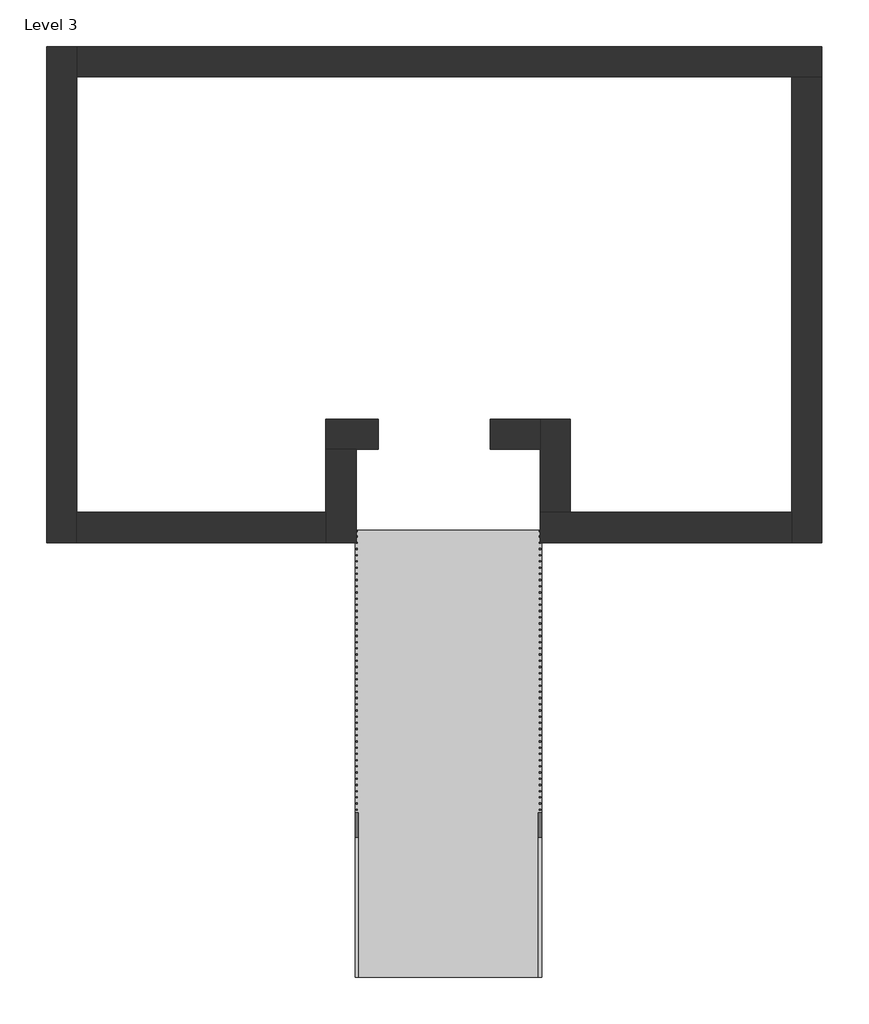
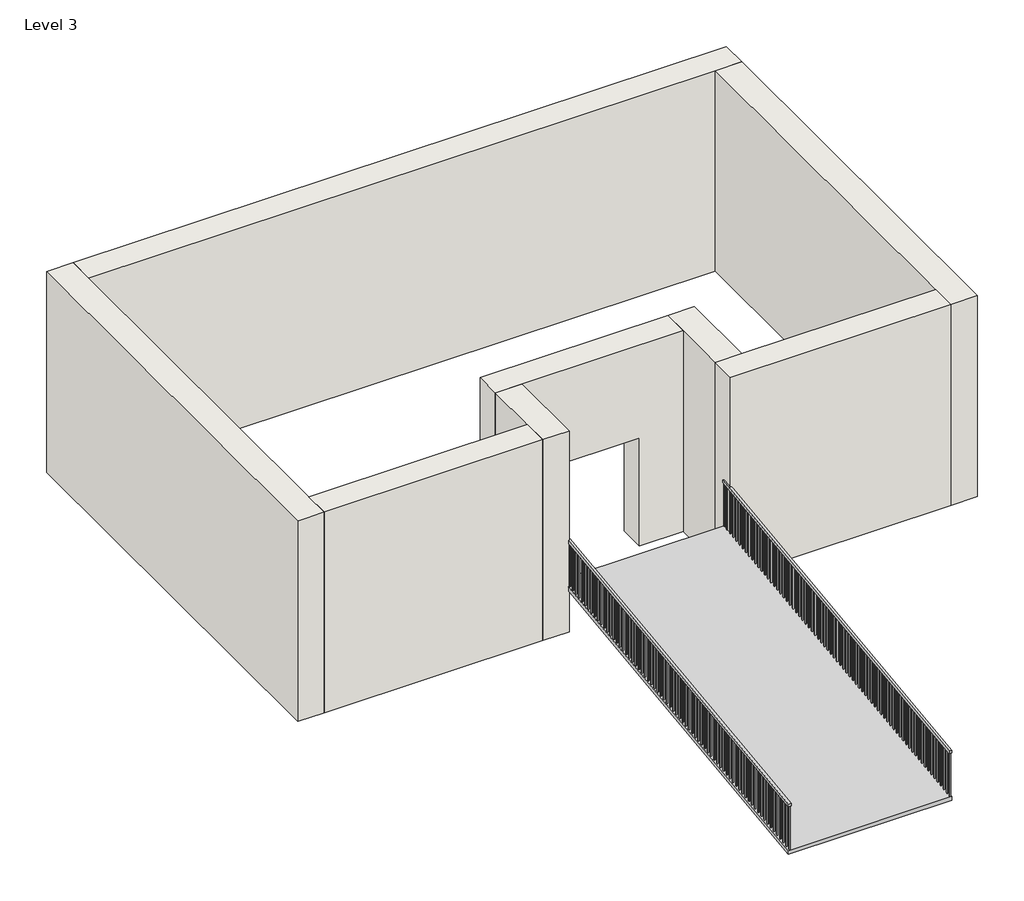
# One storey: 8 walls, 2 railings, 1 ramp.
"""IFC4 building model written with IfcOpenShell, lengths in millimetres."""

from ifc_helpers import new_model, si_unit, frame, origin, place, context, project, spatial, polyline, outline, extrude, faceted_brep, transform, mapped, element, save
from components import handrail_rectangular_7ac86f87, handrail_rectangular_4fce719c, ramp_2_cc1999da

model = new_model("IFC4")

# Units and contexts
model_context = context("Model", 3, world=origin())
ifc_project = project(units=[si_unit("LENGTHUNIT", "METRE", prefix="MILLI")], contexts=[model_context])

# Site, building, storey
site = spatial("IfcSite", under=ifc_project)
building = spatial("IfcBuilding", under=site)
storey = spatial("IfcBuildingStorey", under=building, Name="Level 3", Elevation=-914.4)

# Railings
placement = place(None, origin())
handrail_rectangular_shape = handrail_rectangular_7ac86f87(model_context)
element("IfcRailing", 1, ObjectType="Handrail - Rectangular", at=placement, inside=storey, context=model_context, shape_type="MappedRepresentation", body=[
    mapped(handrail_rectangular_shape, transform((0.0, 0.0, 0.0), x_axis=(1.0, 0.0, 0.0), y_axis=(0.0, 1.0, 0.0), z_axis=(0.0, 0.0, 1.0))),
])
handrail_rectangular_2_shape = handrail_rectangular_4fce719c(model_context)
element("IfcRailing", 2, ObjectType="Handrail - Rectangular", at=placement, inside=storey, context=model_context, shape_type="MappedRepresentation", body=[
    mapped(handrail_rectangular_2_shape, transform((0.0, 0.0, 0.0), x_axis=(1.0, 0.0, 0.0), y_axis=(0.0, 1.0, 0.0), z_axis=(0.0, 0.0, 1.0))),
])

# Ramp
ramp_2_shape = ramp_2_cc1999da(model_context)
element("IfcRamp", 3, ObjectType="Ramp 2", at=placement, inside=storey, context=model_context, shape_type="MappedRepresentation", body=[
    mapped(ramp_2_shape, transform((0.0, 0.0, 0.0), x_axis=(1.0, 0.0, 0.0), y_axis=(0.0, 1.0, 0.0), z_axis=(0.0, 0.0, 1.0))),
])

# Walls
element("IfcWall", 4, ObjectType="Exterior - Brick on CMU", at=placement, inside=storey, context=model_context, shape_type="Brep", body=[
    faceted_brep([(-7722.0345581, -2928.7359239, -914.4), (-7722.0345581, -2433.4359239, -914.4), (-7722.0345581, 4691.2640761, -914.4), (-7722.0345581, 5186.5640761, -914.4), (-7722.0345581, 5186.5640761, 3048.0), (-7722.0345581, 4691.2640761, 3048.0), (-7722.0345581, -2433.4359239, 3048.0), (-7722.0345581, -2928.7359239, 3048.0), (-8217.3345581, -2928.7359239, -914.4), (-8217.3345581, -2928.7359239, 3048.0), (-8217.3345581, 5186.5640761, 3048.0), (-8217.3345581, 5186.5640761, -914.4)], [[[0, 1, 2, 3, 4, 5, 6, 7]], [[8, 9, 10, 11]], [[3, 2, 1, 0, 8, 11]], [[7, 6, 5, 4, 10, 9]], [[4, 3, 11, 10]], [[0, 7, 9, 8]]]),
])
element("IfcWall", 5, ObjectType="Exterior - Brick on CMU", at=placement, inside=storey, context=model_context, shape_type="Brep", body=[
    faceted_brep([(-7722.0345581, 4691.2640761, -914.4), (3974.6654419, 4691.2640761, -914.4), (4469.9654419, 4691.2640761, -914.4), (4469.9654419, 4691.2640761, 3048.0), (3974.6654419, 4691.2640761, 3048.0), (-7722.0345581, 4691.2640761, 3048.0), (-7722.0345581, 5186.5640761, -914.4), (-7722.0345581, 5186.5640761, 3048.0), (4469.9654419, 5186.5640761, 3048.0), (4469.9654419, 5186.5640761, -914.4)], [[[0, 1, 2, 3, 4, 5]], [[6, 7, 8, 9]], [[2, 1, 0, 6, 9]], [[5, 4, 3, 8, 7]], [[3, 2, 9, 8]], [[0, 5, 7, 6]]]),
])
element("IfcWall", 6, ObjectType="Exterior - Brick on CMU", at=placement, inside=storey, context=model_context, shape_type="Brep", body=[
    faceted_brep([(3974.6654419, 4691.2640761, -914.4), (3974.6654419, -2433.4359239, -914.4), (3974.6654419, -2928.7359239, -914.4), (3974.6654419, -2928.7359239, 3048.0), (3974.6654419, -2433.4359239, 3048.0), (3974.6654419, 4691.2640761, 3048.0), (4469.9654419, 4691.2640761, -914.4), (4469.9654419, 4691.2640761, 3048.0), (4469.9654419, -2928.7359239, 3048.0), (4469.9654419, -2928.7359239, -914.4)], [[[0, 1, 2, 3, 4, 5]], [[6, 7, 8, 9]], [[2, 1, 0, 6, 9]], [[5, 4, 3, 8, 7]], [[3, 2, 9, 8]], [[0, 5, 7, 6]]]),
])
element("IfcWall", 7, ObjectType="Exterior - Brick on CMU", at=placement, inside=storey, context=model_context, shape_type="Brep", body=[
    faceted_brep([(3974.6654419, -2433.4359239, -914.4), (355.1654419, -2433.4359239, -914.4), (-140.1345581, -2433.4359239, -914.4), (-140.1345581, -2433.4359239, 3048.0), (355.1654419, -2433.4359239, 3048.0), (3974.6654419, -2433.4359239, 3048.0), (3974.6654419, -2928.7359239, -914.4), (3974.6654419, -2928.7359239, 3048.0), (-140.1345581, -2928.7359239, 3048.0), (-140.1345581, -2928.7359239, -914.4)], [[[0, 1, 2, 3, 4, 5]], [[6, 7, 8, 9]], [[2, 1, 0, 6, 9]], [[5, 4, 3, 8, 7]], [[3, 2, 9, 8]], [[0, 5, 7, 6]]]),
])
element("IfcWall", 8, ObjectType="Exterior - Brick on CMU", at=placement, inside=storey, context=model_context, shape_type="Brep", body=[
    faceted_brep([(355.1654419, -2433.4359239, -914.4), (355.1654419, -909.4359239, -914.4), (355.1654419, -909.4359239, 3048.0), (355.1654419, -2433.4359239, 3048.0), (-140.1345581, -2433.4359239, -914.4), (-140.1345581, -2433.4359239, 3048.0), (-140.1345581, -1404.7359239, 3048.0), (-140.1345581, -909.4359239, 3048.0), (-140.1345581, -909.4359239, -914.4), (-140.1345581, -1404.7359239, -914.4)], [[[0, 1, 2, 3]], [[4, 5, 6, 7, 8, 9]], [[1, 0, 4, 9, 8]], [[3, 2, 7, 6, 5]], [[2, 1, 8, 7]], [[0, 3, 5, 4]]]),
])
element("IfcWall", 9, ObjectType="Exterior - Brick on CMU", at=placement, inside=storey, context=model_context, shape_type="Brep", body=[
    faceted_brep([(-140.1345581, -909.4359239, -914.4), (-959.2845581, -909.4359239, -914.4), (-959.2845581, -909.4359239, 1219.2), (-2788.0845581, -909.4359239, 1219.2), (-2788.0845581, -909.4359239, -914.4), (-3645.3345581, -909.4359239, -914.4), (-3645.3345581, -909.4359239, 3048.0), (-140.1345581, -909.4359239, 3048.0), (-959.2845581, -1404.7359239, 1219.2), (-959.2845581, -1404.7359239, -914.4), (-140.1345581, -1404.7359239, -914.4), (-140.1345581, -1404.7359239, 3048.0), (-3150.0345581, -1404.7359239, 3048.0), (-3645.3345581, -1404.7359239, 3048.0), (-3645.3345581, -1404.7359239, -914.4), (-3150.0345581, -1404.7359239, -914.4), (-2788.0845581, -1404.7359239, -914.4), (-2788.0845581, -1404.7359239, 1219.2)], [[[0, 1, 2, 3, 4, 5, 6, 7]], [[8, 9, 10, 11, 12, 13, 14, 15, 16, 17]], [[10, 9, 1, 0]], [[16, 15, 14, 5, 4]], [[7, 6, 13, 12, 11]], [[6, 5, 14, 13]], [[0, 7, 11, 10]], [[2, 1, 9, 8]], [[3, 2, 8, 17]], [[4, 3, 17, 16]]]),
])
element("IfcWall", 10, ObjectType="Exterior - Brick on CMU", at=placement, inside=storey, context=model_context, shape_type="Brep", body=[
    faceted_brep([(-3645.3345581, -1404.7359239, -914.4), (-3645.3345581, -2433.4359239, -914.4), (-3645.3345581, -2928.7359239, -914.4), (-3645.3345581, -2928.7359239, 3048.0), (-3645.3345581, -2433.4359239, 3048.0), (-3645.3345581, -1404.7359239, 3048.0), (-3150.0345581, -1404.7359239, -914.4), (-3150.0345581, -1404.7359239, 3048.0), (-3150.0345581, -2928.7359239, 3048.0), (-3150.0345581, -2928.7359239, -914.4)], [[[0, 1, 2, 3, 4, 5]], [[6, 7, 8, 9]], [[2, 1, 0, 6, 9]], [[5, 4, 3, 8, 7]], [[3, 2, 9, 8]], [[0, 5, 7, 6]]]),
])
element("IfcWall", 11, ObjectType="Exterior - Brick on CMU", at=placement, inside=storey, context=model_context, shape_type="SweptSolid", body=[
    extrude(outline(polyline([(-7722.0345581, -2433.4359239), (-3645.3345581, -2433.4359239), (-3645.3345581, -2928.7359239), (-7722.0345581, -2928.7359239), (-7722.0345581, -2433.4359239)])), frame((0.0, 0.0, -914.4), z_axis=(0.0, 0.0, 1.0), x_axis=(1.0, 0.0, 0.0)), (0.0, 0.0, 1.0), 3962.4),
])

save(model, "model.ifc")
